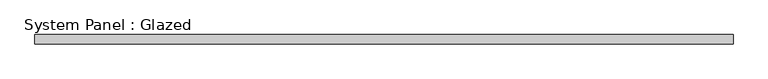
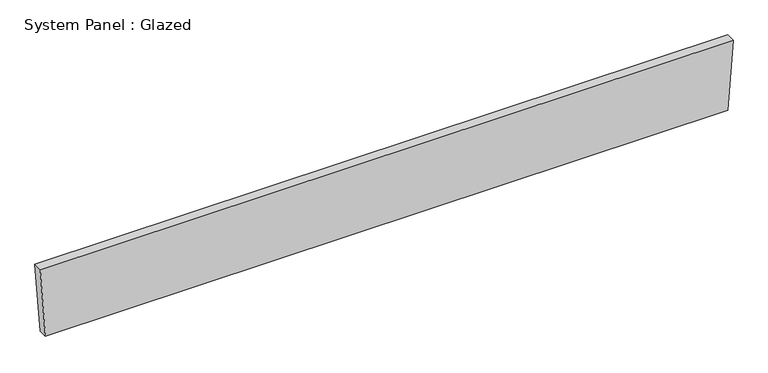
"""IFC4 building model written with IfcOpenShell, lengths in millimetres: plate geometry, System Panel : Glazed."""

from ifc_helpers import new_model, si_unit, frame, origin, place, context, project, spatial, polyline, outline, extrude, source, transform, mapped, element, save


def system_panel_glazed_61039f9e(model_context):
    return source(origin(), model_context, "Body", "SweptSolid", [
        extrude(outline(polyline([(0.0, -951.6915904), (0.0, 951.6915904), (201.7956974, 966.0842371), (201.7956974, -966.0842371), (0.0, -951.6915904)])), frame((0.0, -44.45, 0.0), z_axis=(0.0, 1.0, 0.0), x_axis=(0.0, 0.0, 1.0)), (0.0, 0.0, 1.0), 25.4),
    ])


if __name__ == "__main__":
    model = new_model("IFC4")
    model_context = context("Model", 3, world=origin())
    ifc_project = project(units=[si_unit("LENGTHUNIT", "METRE", prefix="MILLI")], contexts=[model_context])
    site = spatial("IfcSite", under=ifc_project)
    building = spatial("IfcBuilding", under=site)
    placement = place(None, origin())
    system_panel_glazed_shape = system_panel_glazed_61039f9e(model_context)
    element("IfcPlate", 1, ObjectType="System Panel : Glazed", at=placement, inside=building, context=model_context, shape_type="MappedRepresentation", body=[
        mapped(system_panel_glazed_shape, transform((0.0, 0.0, 0.0), x_axis=(1.0, 0.0, 0.0), y_axis=(0.0, 1.0, 0.0), z_axis=(0.0, 0.0, 1.0))),
    ])
    save(model, "model.ifc")
